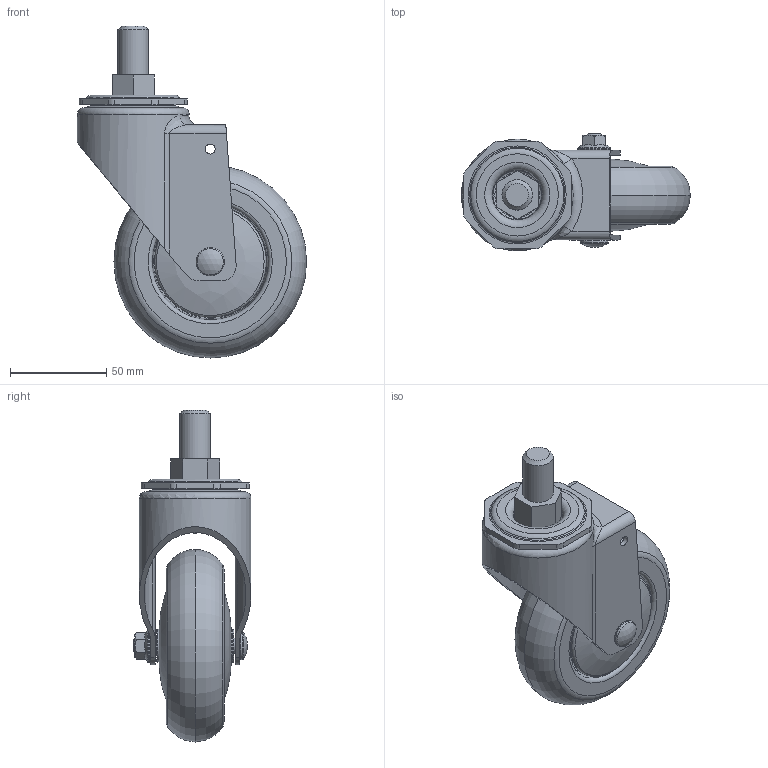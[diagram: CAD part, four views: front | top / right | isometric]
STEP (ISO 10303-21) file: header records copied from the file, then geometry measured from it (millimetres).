
FILE_DESCRIPTION(/* description */ (''),/* implementation_level */ '2;1');
FILE_NAME(/* name */ 'E:\홈피용도면\\X2\C2E0ADDCD648D398C774C9C0C6A9B3C4BA74\X0\\무소음캐스터\20160225-\X2\BB34C18CC74CCE90C2A4D130\X0\\PL-100-ASS.stp',/* time_stamp */ '2016-02-25T22:27:03+09:00',/* author */ ('장용하'),/* organization */ (''),/* preprocessor_version */ 'ST-DEVELOPER v15.6',/* originating_system */ 'Autodesk Inventor 2015',/* authorisation */ '');
FILE_SCHEMA (('AUTOMOTIVE_DESIGN { 1 0 10303 214 3 1 1 }'));
Length unit declared in the file: millimetre
Products named in the file (1): PL-100-ASS
Bounding box: 118.97 x 61.22 x 172.4 mm (x, y, z)
Volume: 256352.6 mm3; surface area: 83012.9 mm2
Topology: 1 solids, 1 shells, 383 faces, 875 edges, 537 vertices
Faces by surface type: plane 147, cylinder 114, torus 61, cone 50, bspline 10, sphere 1
Full cylindrical faces by diameter (mm): 5.2 x2, 8 x2, 12.5 x1, 14.6 x1, 15.875 x1, 17 x1, 22 x2, 24.667 x2, 32.333 x2, 34 x1, 36 x1, 41 x1, 53 x1, 58 x1
Entity records: 12030 total; most frequent: CARTESIAN_POINT 3904, DIRECTION 1740, ORIENTED_EDGE 1496, EDGE_CURVE 748, AXIS2_PLACEMENT_3D 728, EDGE_LOOP 549, VERTEX_POINT 525, FACE_OUTER_BOUND 383
